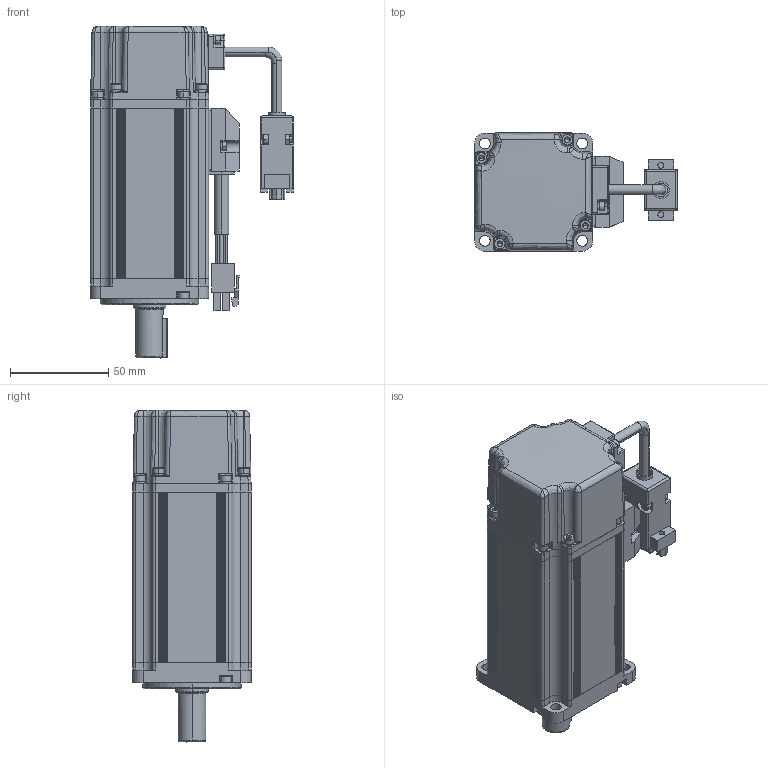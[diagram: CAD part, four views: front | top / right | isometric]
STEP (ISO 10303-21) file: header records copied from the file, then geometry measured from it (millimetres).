
FILE_DESCRIPTION((''),'2;1');
FILE_NAME('22SV-ML06-0R4G-2-1A0-1000_ASM','2018-05-02T',('Administrator'),(''),'PRO/ENGINEER BY PARAMETRIC TECHNOLOGY CORPORATION, 2009440','PRO/ENGINEER BY PARAMETRIC TECHNOLOGY CORPORATION, 2009440','');
FILE_SCHEMA(('CONFIG_CONTROL_DESIGN'));
Products named in the file (31): MH60-400W-8599; MH60-400-Z_ASM; ML60-QDG; 60-MFQ; 60-ZYG; GB-T93-2R5; GB-T70-M2R5X8; OQ-52X1; GB-T276-6003; GB-T93-3; GB-T70-M3X16; GB-T9877-17X28X4; ML60-Q_ASM; MH60-400W-JK; GB-T97-3; GB-T70-M3X5; DYX-CT; DYX-YXH; MH60-400W-DZ_ASM; 5X5X20; 60-H-JDS; OQ-50X1; 60-H-JDS_ASM; 60-FHZ-L; XHXCT; XHX; GB-T70-M3X12; 60-FHZ-ZJ_ASM; DYX-ZJ; XHX-ZJ; 22SV-ML06-0R4G-2-1A0-1000_ASM
Assembly tree (65 placements, depth 3):
  22SV-ML06-0R4G-2-1A0-1000_ASM
    MH60-400-Z_ASM
      MH60-400W-8599
    ML60-Q_ASM
      ML60-QDG
      60-MFQ
      60-ZYG
      GB-T93-2R5  x3
      GB-T70-M2R5X8  x3
      OQ-52X1
      GB-T276-6003
      GB-T93-3  x4
      GB-T70-M3X16  x4
      GB-T9877-17X28X4
    MH60-400W-DZ_ASM
      MH60-400W-JK
      GB-T97-3
      GB-T93-3
      GB-T70-M3X5
      DYX-CT
      DYX-YXH
      GB-T93-2R5  x2
      GB-T70-M2R5X8  x2
    5X5X20
    60-H-JDS_ASM
      60-H-JDS
      OQ-52X1
      OQ-50X1
      GB-T93-3  x4
      GB-T70-M3X16  x4
    60-FHZ-ZJ_ASM
      60-FHZ-L
      XHXCT
      XHX
      GB-T93-2R5  x2
      GB-T70-M2R5X8  x2
      GB-T93-3  x4
      GB-T70-M3X12  x4
    DYX-ZJ
    XHX-ZJ
Bounding box: 103.09 x 60 x 168.72 mm (x, y, z)
Volume: 185949.9 mm3; surface area: 131548.9 mm2
Topology: 60 solids, 84 shells, 2652 faces, 6211 edges, 3815 vertices
Faces by surface type: plane 1368, cylinder 735, cone 339, torus 115, bspline 86, sphere 5, extrusion 4
Entity records: 65929 total; most frequent: CARTESIAN_POINT 18167, DIRECTION 9932, ORIENTED_EDGE 9624, EDGE_CURVE 4827, AXIS2_PLACEMENT_3D 3457, VERTEX_POINT 3079, VECTOR 3018, LINE 3014
